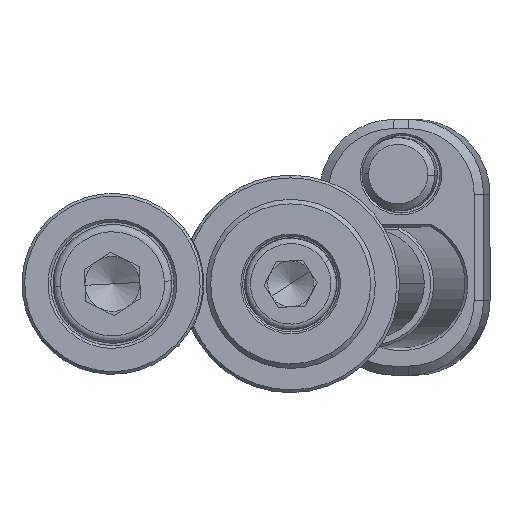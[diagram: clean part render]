
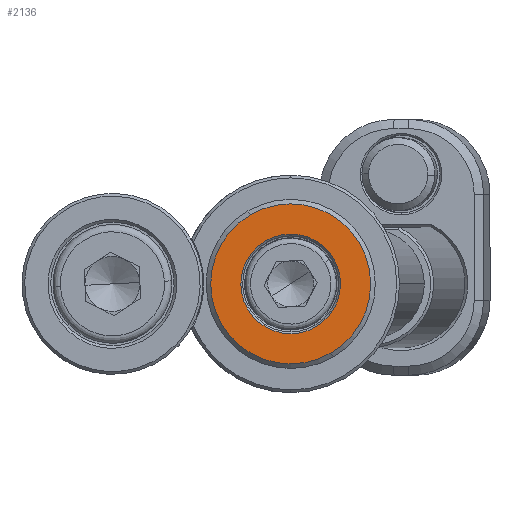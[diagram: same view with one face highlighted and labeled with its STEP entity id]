
A CAD part, front view. The second image highlights one B-rep face of the part: STEP entity #2136.
In plain terms, the highlighted planar face has unit normal (0, -1, 0).
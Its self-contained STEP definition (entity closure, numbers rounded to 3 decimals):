
#31 = DIRECTION ( 'NONE',  ( 0., 1., 0. ) ) ;
#176 = ORIENTED_EDGE ( 'NONE', *, *, #3717, .T. ) ;
#375 = CIRCLE ( 'NONE', #10315, 8.75 ) ;
#1724 = CIRCLE ( 'NONE', #4048, 8.75 ) ;
#1832 = VERTEX_POINT ( 'NONE', #6457 ) ;
#2136 = ADVANCED_FACE ( 'NONE', ( #4182, #8544 ), #5282, .F. ) ;
#2945 = EDGE_LOOP ( 'NONE', ( #7596, #176 ) ) ;
#3717 = EDGE_CURVE ( 'NONE', #8636, #1832, #1724, .T. ) ;
#3770 = ORIENTED_EDGE ( 'NONE', *, *, #7135, .T. ) ;
#3922 = DIRECTION ( 'NONE',  ( 0., -1., 0. ) ) ;
#4048 = AXIS2_PLACEMENT_3D ( 'NONE', #5461, #11753, #8508 ) ;
#4182 = FACE_BOUND ( 'NONE', #9449, .T. ) ;
#4468 = DIRECTION ( 'NONE',  ( -0.505, 0., 0.863 ) ) ;
#4595 = ORIENTED_EDGE ( 'NONE', *, *, #10997, .T. ) ;
#5210 = AXIS2_PLACEMENT_3D ( 'NONE', #7285, #11696, #9460 ) ;
#5282 = PLANE ( 'NONE',  #14065 ) ;
#5461 = CARTESIAN_POINT ( 'NONE',  ( 0., -4., 0. ) ) ;
#5619 = CARTESIAN_POINT ( 'NONE',  ( 2.753, -4., -4.704 ) ) ;
#5974 = VERTEX_POINT ( 'NONE', #5619 ) ;
#6120 = AXIS2_PLACEMENT_3D ( 'NONE', #6294, #12012, #7641 ) ;
#6294 = CARTESIAN_POINT ( 'NONE',  ( 0., -4., 0. ) ) ;
#6457 = CARTESIAN_POINT ( 'NONE',  ( -4.42, -4., 7.552 ) ) ;
#7135 = EDGE_CURVE ( 'NONE', #13911, #5974, #7992, .T. ) ;
#7285 = CARTESIAN_POINT ( 'NONE',  ( 0., -4., 0. ) ) ;
#7511 = CARTESIAN_POINT ( 'NONE',  ( 4.42, -4., -7.552 ) ) ;
#7596 = ORIENTED_EDGE ( 'NONE', *, *, #11601, .T. ) ;
#7641 = DIRECTION ( 'NONE',  ( -0.505, 0., 0.863 ) ) ;
#7992 = CIRCLE ( 'NONE', #6120, 5.45 ) ;
#8508 = DIRECTION ( 'NONE',  ( -0.505, 0., 0.863 ) ) ;
#8544 = FACE_OUTER_BOUND ( 'NONE', #2945, .T. ) ;
#8636 = VERTEX_POINT ( 'NONE', #7511 ) ;
#9083 = CARTESIAN_POINT ( 'NONE',  ( -4.531, -4., -2.652 ) ) ;
#9449 = EDGE_LOOP ( 'NONE', ( #4595, #3770 ) ) ;
#9460 = DIRECTION ( 'NONE',  ( -0.505, 0., 0.863 ) ) ;
#10315 = AXIS2_PLACEMENT_3D ( 'NONE', #13857, #3922, #10431 ) ;
#10431 = DIRECTION ( 'NONE',  ( -0.505, 0., 0.863 ) ) ;
#10997 = EDGE_CURVE ( 'NONE', #5974, #13911, #11898, .T. ) ;
#11601 = EDGE_CURVE ( 'NONE', #1832, #8636, #375, .T. ) ;
#11696 = DIRECTION ( 'NONE',  ( 0., 1., 0. ) ) ;
#11753 = DIRECTION ( 'NONE',  ( 0., -1., 0. ) ) ;
#11871 = CARTESIAN_POINT ( 'NONE',  ( -2.753, -4., 4.704 ) ) ;
#11898 = CIRCLE ( 'NONE', #5210, 5.45 ) ;
#12012 = DIRECTION ( 'NONE',  ( 0., 1., 0. ) ) ;
#13857 = CARTESIAN_POINT ( 'NONE',  ( 0., -4., 0. ) ) ;
#13911 = VERTEX_POINT ( 'NONE', #11871 ) ;
#14065 = AXIS2_PLACEMENT_3D ( 'NONE', #9083, #31, #4468 ) ;
